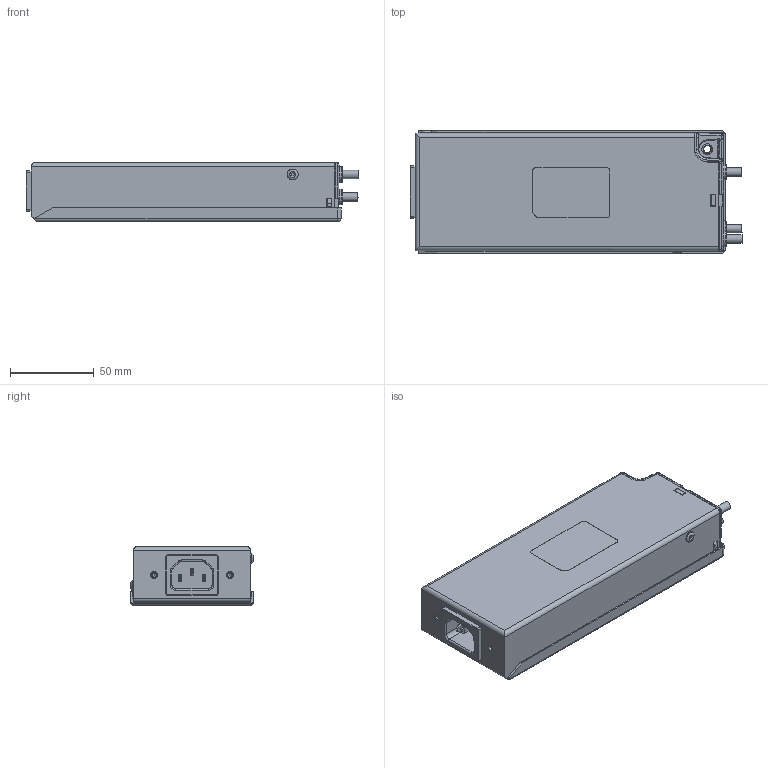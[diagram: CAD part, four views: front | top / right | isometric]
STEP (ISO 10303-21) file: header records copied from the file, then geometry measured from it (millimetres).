
FILE_DESCRIPTION(/* description */ (''),/* implementation_level */ '2;1');
FILE_NAME(/* name */ 'C:\Users\Christian.Ackermann\OneDrive - Schaffner EMV AG\Desktop\UMA_customerSTEP\FN266x-10_15-07.stp',/* time_stamp */ '2021-11-30T11:22:50+01:00',/* author */ ('Christian.Ackermann'),/* organization */ (''),/* preprocessor_version */ 'ST-DEVELOPER v18.1',/* originating_system */ 'Autodesk Inventor 2020',/* authorisation */ '');
FILE_SCHEMA (('AUTOMOTIVE_DESIGN { 1 0 10303 214 3 1 1 }'));
Length unit declared in the file: millimetre
Products named in the file (1): FN266x-10_15-07
Bounding box: 197.7 x 73 x 35.06 mm (x, y, z)
Volume: 434391.2 mm3; surface area: 78619.1 mm2
Topology: 3 solids, 3 shells, 872 faces, 2219 edges, 1379 vertices
Faces by surface type: plane 428, cylinder 260, bspline 95, torus 40, cone 26, sphere 23
Full cylindrical faces by diameter (mm): 2 x2, 2.459 x2, 4.2 x1, 4.25 x2, 5 x3, 6.4 x1, 6.5 x2, 8.39 x2, 8.74 x3
Entity records: 30075 total; most frequent: CARTESIAN_POINT 7962, ORIENTED_EDGE 4424, DIRECTION 4390, EDGE_CURVE 2212, AXIS2_PLACEMENT_3D 1523, VERTEX_POINT 1379, LINE 1344, VECTOR 1344
